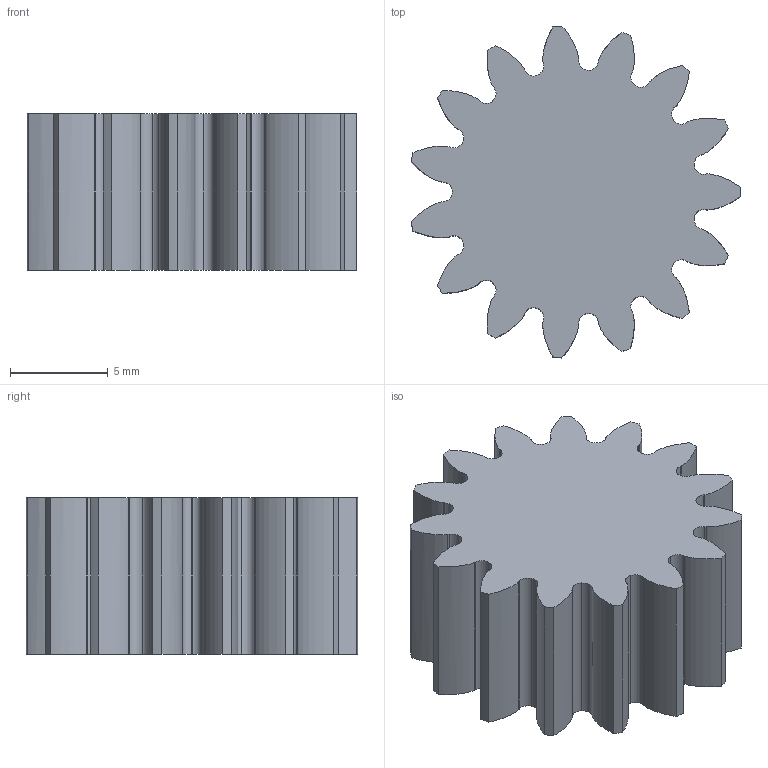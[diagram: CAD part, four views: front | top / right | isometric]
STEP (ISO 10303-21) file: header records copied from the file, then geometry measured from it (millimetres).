
FILE_DESCRIPTION(/* description */ (''),/* implementation_level */ '2;1');
FILE_NAME(/* name */ 'C:/Users/Brandon/Desktop/gears 25deg mod1 fillet.5/15t.step',/* time_stamp */ '2018-01-03T17:39:36-06:00',/* author */ (''),/* organization */ (''),/* preprocessor_version */ 'ST-DEVELOPER v16.13',/* originating_system */ 'Autodesk Translation Framework v6.5.0.72',/* authorisation */ '');
FILE_SCHEMA (('AUTOMOTIVE_DESIGN { 1 0 10303 214 3 1 1 }'));
Length unit declared in the file: millimetre
Products named in the file (5): (Unsaved); Spur Gear (12 teeth); Spur Gear (40 teeth); Spur Gear (35 teeth); Spur Gear (15 teeth)
Assembly tree (4 placements, depth 2):
  (Unsaved)
    Spur Gear (12 teeth)
    Spur Gear (40 teeth)
    Spur Gear (35 teeth)
    Spur Gear (15 teeth)
Bounding box: 16.86 x 16.95 x 8 mm (x, y, z)
Volume: 1385.1 mm3; surface area: 1059.7 mm2
Topology: 1 solids, 1 shells, 122 faces, 360 edges, 240 vertices
Faces by surface type: cylinder 60, plane 32, bspline 30
Entity records: 12860 total; most frequent: CARTESIAN_POINT 9641, ORIENTED_EDGE 720, DIRECTION 622, EDGE_CURVE 360, VERTEX_POINT 240, AXIS2_PLACEMENT_3D 221, LINE 180, VECTOR 180
